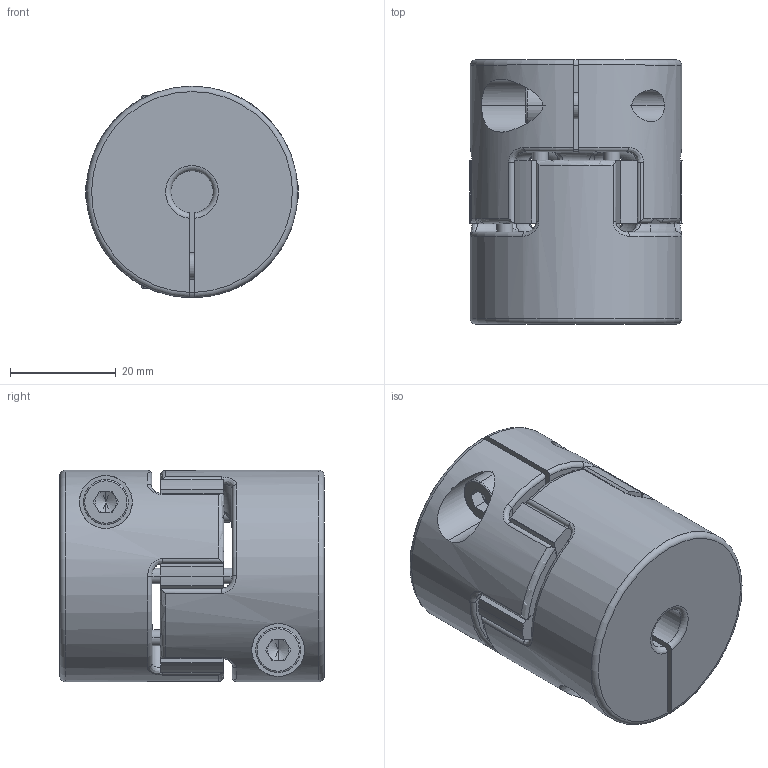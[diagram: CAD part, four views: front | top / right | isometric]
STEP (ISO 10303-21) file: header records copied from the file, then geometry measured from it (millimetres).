
FILE_DESCRIPTION (( 'STEP AP203' ), '1' );
FILE_NAME ('DXA-40X50-8-8.STEP', '2023-10-18T03:51:43', ( '' ), ( '' ), 'SwSTEP 2.0', 'SolidWorks 2020', '' );
FILE_SCHEMA (( 'CONFIG_CONTROL_DESIGN' ));
Length unit declared in the file: millimetre
Products named in the file (4): DXA-40X50-8-8; 40X50繩豪倛; 40繩豪菜; socket head cap screw_iso_ISO 4762 M5 x 12 - 12C
Assembly tree (5 placements, depth 2):
  DXA-40X50-8-8
    40X50繩豪倛  x2
    40繩豪菜
    socket head cap screw_iso_ISO 4762 M5 x 12 - 12C  x2
Bounding box: 40.19 x 50 x 40 mm (x, y, z)
Volume: 55942.4 mm3; surface area: 19168.5 mm2
Topology: 5 solids, 5 shells, 270 faces, 659 edges, 400 vertices
Faces by surface type: cylinder 123, plane 59, torus 56, bspline 24, cone 8
Entity records: 6239 total; most frequent: CARTESIAN_POINT 1953, DIRECTION 859, ORIENTED_EDGE 778, EDGE_CURVE 389, AXIS2_PLACEMENT_3D 369, VERTEX_POINT 245, CIRCLE 210, EDGE_LOOP 180
